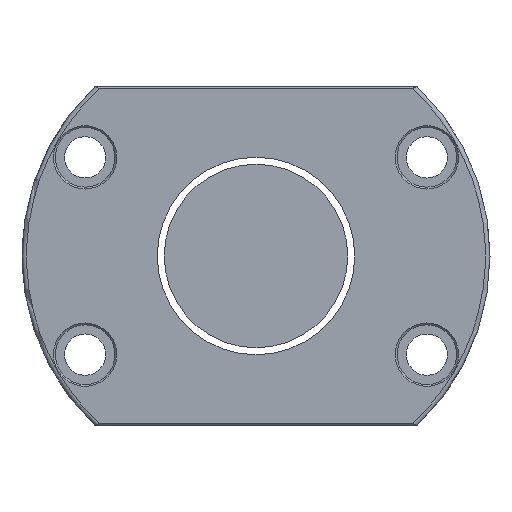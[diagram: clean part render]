
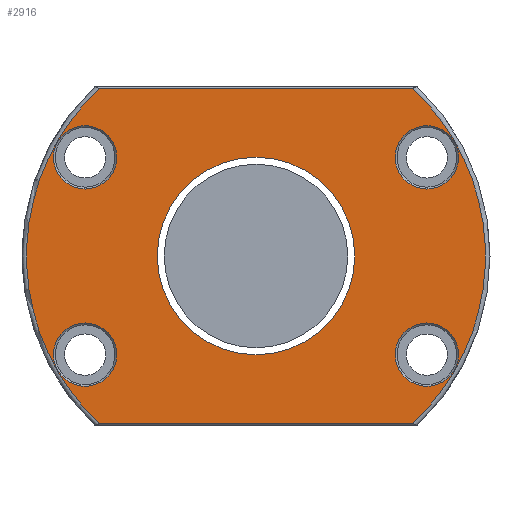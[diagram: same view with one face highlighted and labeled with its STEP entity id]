
A CAD part, left-side view. The second image highlights one B-rep face of the part: STEP entity #2916.
In plain terms, the highlighted planar face has unit normal (-1, 0, 0).
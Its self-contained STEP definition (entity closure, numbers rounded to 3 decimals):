
#19 = CARTESIAN_POINT ( 'NONE',  ( -240., -68.13, -73.2 ) ) ;
#24 = EDGE_CURVE ( 'NONE', #1204, #1204, #940, .T. ) ;
#46 = FACE_BOUND ( 'NONE', #575, .T. ) ;
#70 = EDGE_LOOP ( 'NONE', ( #376 ) ) ;
#117 = VERTEX_POINT ( 'NONE', #3125 ) ;
#124 = DIRECTION ( 'NONE',  ( 0., 0., -1. ) ) ;
#175 = AXIS2_PLACEMENT_3D ( 'NONE', #3115, #1755, #324 ) ;
#195 = VERTEX_POINT ( 'NONE', #2418 ) ;
#248 = AXIS2_PLACEMENT_3D ( 'NONE', #2950, #1609, #820 ) ;
#272 = CARTESIAN_POINT ( 'NONE',  ( -240., 0., 0. ) ) ;
#285 = DIRECTION ( 'NONE',  ( -1., 0., 0. ) ) ;
#324 = DIRECTION ( 'NONE',  ( 0., 0., 1. ) ) ;
#376 = ORIENTED_EDGE ( 'NONE', *, *, #2569, .T. ) ;
#387 = FACE_BOUND ( 'NONE', #1601, .T. ) ;
#421 = EDGE_CURVE ( 'NONE', #1211, #2309, #1835, .T. ) ;
#436 = EDGE_CURVE ( 'NONE', #117, #3339, #2106, .T. ) ;
#460 = DIRECTION ( 'NONE',  ( 1., 0., 0. ) ) ;
#506 = DIRECTION ( 'NONE',  ( 0., 0., 1. ) ) ;
#575 = EDGE_LOOP ( 'NONE', ( #2830 ) ) ;
#576 = CARTESIAN_POINT ( 'NONE',  ( -240., 102., 0. ) ) ;
#600 = DIRECTION ( 'NONE',  ( 1., 0., 0. ) ) ;
#613 = DIRECTION ( 'NONE',  ( 0., 0., 1. ) ) ;
#615 = EDGE_CURVE ( 'NONE', #2355, #2355, #1047, .T. ) ;
#646 = CARTESIAN_POINT ( 'NONE',  ( -240., -74.478, 56.8 ) ) ;
#671 = ORIENTED_EDGE ( 'NONE', *, *, #615, .T. ) ;
#693 = AXIS2_PLACEMENT_3D ( 'NONE', #576, #2239, #613 ) ;
#820 = DIRECTION ( 'NONE',  ( 0., 0., 1. ) ) ;
#885 = ORIENTED_EDGE ( 'NONE', *, *, #2013, .T. ) ;
#940 = CIRCLE ( 'NONE', #2883, 13.8 ) ;
#984 = CARTESIAN_POINT ( 'NONE',  ( -240., 74.478, -43. ) ) ;
#986 = CARTESIAN_POINT ( 'NONE',  ( -240., 74.478, 56.8 ) ) ;
#1029 = AXIS2_PLACEMENT_3D ( 'NONE', #984, #460, #1273 ) ;
#1047 = CIRCLE ( 'NONE', #1164, 43.05 ) ;
#1088 = AXIS2_PLACEMENT_3D ( 'NONE', #272, #3305, #2706 ) ;
#1105 = VECTOR ( 'NONE', #2156, 1000. ) ;
#1164 = AXIS2_PLACEMENT_3D ( 'NONE', #2314, #600, #124 ) ;
#1192 = FACE_BOUND ( 'NONE', #70, .T. ) ;
#1204 = VERTEX_POINT ( 'NONE', #986 ) ;
#1211 = VERTEX_POINT ( 'NONE', #3123 ) ;
#1273 = DIRECTION ( 'NONE',  ( 0., 0., 1. ) ) ;
#1353 = EDGE_LOOP ( 'NONE', ( #2547, #885, #3056, #2487 ) ) ;
#1451 = EDGE_CURVE ( 'NONE', #3106, #3106, #3348, .T. ) ;
#1501 = EDGE_LOOP ( 'NONE', ( #1969 ) ) ;
#1549 = CIRCLE ( 'NONE', #175, 13.8 ) ;
#1601 = EDGE_LOOP ( 'NONE', ( #2447 ) ) ;
#1609 = DIRECTION ( 'NONE',  ( 1., 0., 0. ) ) ;
#1616 = EDGE_CURVE ( 'NONE', #3339, #1211, #2631, .T. ) ;
#1755 = DIRECTION ( 'NONE',  ( 1., 0., 0. ) ) ;
#1835 = LINE ( 'NONE', #3504, #1105 ) ;
#1961 = CARTESIAN_POINT ( 'NONE',  ( -240., 0., 0. ) ) ;
#1969 = ORIENTED_EDGE ( 'NONE', *, *, #1451, .T. ) ;
#1972 = CARTESIAN_POINT ( 'NONE',  ( -240., 68.13, 73.2 ) ) ;
#1976 = FACE_BOUND ( 'NONE', #2670, .T. ) ;
#1995 = FACE_BOUND ( 'NONE', #1501, .T. ) ;
#2013 = EDGE_CURVE ( 'NONE', #2309, #117, #2920, .T. ) ;
#2073 = AXIS2_PLACEMENT_3D ( 'NONE', #1961, #285, #2496 ) ;
#2075 = CIRCLE ( 'NONE', #1029, 13.8 ) ;
#2097 = EDGE_CURVE ( 'NONE', #2140, #2140, #2075, .T. ) ;
#2106 = LINE ( 'NONE', #3469, #2422 ) ;
#2140 = VERTEX_POINT ( 'NONE', #3245 ) ;
#2156 = DIRECTION ( 'NONE',  ( 0., -1., 0. ) ) ;
#2239 = DIRECTION ( 'NONE',  ( -1., 0., 0. ) ) ;
#2309 = VERTEX_POINT ( 'NONE', #19 ) ;
#2314 = CARTESIAN_POINT ( 'NONE',  ( -240., 0., 0. ) ) ;
#2355 = VERTEX_POINT ( 'NONE', #3395 ) ;
#2418 = CARTESIAN_POINT ( 'NONE',  ( -240., -74.478, -29.2 ) ) ;
#2422 = VECTOR ( 'NONE', #3189, 1000. ) ;
#2447 = ORIENTED_EDGE ( 'NONE', *, *, #24, .T. ) ;
#2487 = ORIENTED_EDGE ( 'NONE', *, *, #1616, .T. ) ;
#2496 = DIRECTION ( 'NONE',  ( 0., 0., 1. ) ) ;
#2547 = ORIENTED_EDGE ( 'NONE', *, *, #421, .T. ) ;
#2569 = EDGE_CURVE ( 'NONE', #195, #195, #1549, .T. ) ;
#2631 = CIRCLE ( 'NONE', #2073, 100. ) ;
#2670 = EDGE_LOOP ( 'NONE', ( #671 ) ) ;
#2706 = DIRECTION ( 'NONE',  ( 0., 0., 1. ) ) ;
#2830 = ORIENTED_EDGE ( 'NONE', *, *, #2097, .T. ) ;
#2883 = AXIS2_PLACEMENT_3D ( 'NONE', #3237, #3042, #506 ) ;
#2916 = ADVANCED_FACE ( 'NONE', ( #3346, #1192, #1995, #387, #46, #1976 ), #3075, .T. ) ;
#2920 = CIRCLE ( 'NONE', #1088, 100. ) ;
#2950 = CARTESIAN_POINT ( 'NONE',  ( -240., -74.478, 43. ) ) ;
#3042 = DIRECTION ( 'NONE',  ( 1., 0., 0. ) ) ;
#3056 = ORIENTED_EDGE ( 'NONE', *, *, #436, .T. ) ;
#3075 = PLANE ( 'NONE',  #693 ) ;
#3106 = VERTEX_POINT ( 'NONE', #646 ) ;
#3115 = CARTESIAN_POINT ( 'NONE',  ( -240., -74.478, -43. ) ) ;
#3123 = CARTESIAN_POINT ( 'NONE',  ( -240., 68.13, -73.2 ) ) ;
#3125 = CARTESIAN_POINT ( 'NONE',  ( -240., -68.13, 73.2 ) ) ;
#3189 = DIRECTION ( 'NONE',  ( 0., 1., 0. ) ) ;
#3237 = CARTESIAN_POINT ( 'NONE',  ( -240., 74.478, 43. ) ) ;
#3245 = CARTESIAN_POINT ( 'NONE',  ( -240., 74.478, -29.2 ) ) ;
#3305 = DIRECTION ( 'NONE',  ( -1., 0., 0. ) ) ;
#3339 = VERTEX_POINT ( 'NONE', #1972 ) ;
#3346 = FACE_OUTER_BOUND ( 'NONE', #1353, .T. ) ;
#3348 = CIRCLE ( 'NONE', #248, 13.8 ) ;
#3395 = CARTESIAN_POINT ( 'NONE',  ( -240., 0., -43.05 ) ) ;
#3469 = CARTESIAN_POINT ( 'NONE',  ( -240., 70.2, 73.2 ) ) ;
#3504 = CARTESIAN_POINT ( 'NONE',  ( -240., -70.2, -73.2 ) ) ;
